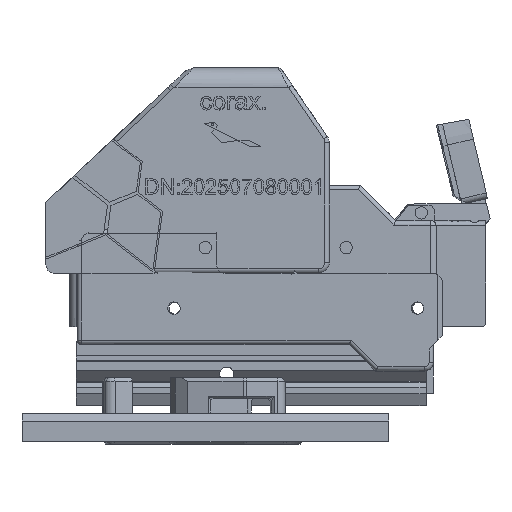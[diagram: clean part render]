
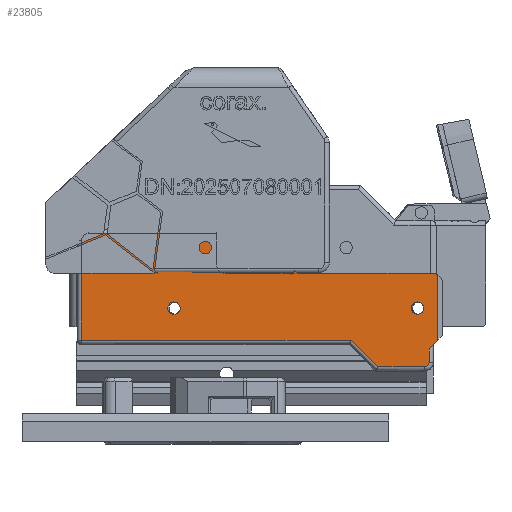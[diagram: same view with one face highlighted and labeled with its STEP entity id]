
A CAD part, left-side view. The second image highlights one B-rep face of the part: STEP entity #23805.
In plain terms, the highlighted planar face has unit normal (-1, 0, 0).
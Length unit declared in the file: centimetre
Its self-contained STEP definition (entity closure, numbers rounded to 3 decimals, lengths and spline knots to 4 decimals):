
#503=FACE_BOUND($,#8993,.T.);
#504=FACE_BOUND($,#8994,.T.);
#896=CIRCLE($,#25054,0.1);
#904=CIRCLE($,#25074,0.225);
#905=CIRCLE($,#25075,0.2);
#906=CIRCLE($,#25076,0.15);
#907=CIRCLE($,#25077,0.14);
#908=CIRCLE($,#25078,0.14);
#3005=LINE($,#43021,#5407);
#3007=LINE($,#43041,#5409);
#3008=LINE($,#43047,#5410);
#3010=LINE($,#43051,#5412);
#3019=LINE($,#43076,#5421);
#3024=LINE($,#43090,#5426);
#3025=LINE($,#43092,#5427);
#3026=LINE($,#43096,#5428);
#3027=LINE($,#43098,#5429);
#3028=LINE($,#43100,#5430);
#3029=LINE($,#43102,#5431);
#3030=LINE($,#43104,#5432);
#3031=LINE($,#43106,#5433);
#3032=LINE($,#43108,#5434);
#3033=LINE($,#43110,#5435);
#3034=LINE($,#43112,#5436);
#3035=LINE($,#43114,#5437);
#3036=LINE($,#43118,#5438);
#3037=LINE($,#43120,#5439);
#5407=VECTOR($,#29496,1.0586);
#5409=VECTOR($,#29508,0.8485);
#5410=VECTOR($,#29515,0.3);
#5412=VECTOR($,#29519,6.0914);
#5421=VECTOR($,#29544,2.25);
#5426=VECTOR($,#29559,0.2828);
#5427=VECTOR($,#29560,1.4707);
#5428=VECTOR($,#29563,3.0494);
#5429=VECTOR($,#29564,0.0896);
#5430=VECTOR($,#29565,0.0458);
#5431=VECTOR($,#29566,0.0155);
#5432=VECTOR($,#29567,0.0135);
#5433=VECTOR($,#29568,0.0087);
#5434=VECTOR($,#29569,0.04);
#5435=VECTOR($,#29570,0.0232);
#5436=VECTOR($,#29571,0.0517);
#5437=VECTOR($,#29572,1.4621);
#5438=VECTOR($,#29575,0.6913);
#5439=VECTOR($,#29576,2.9);
#6381=PLANE($,#25073);
#7618=FACE_OUTER_BOUND($,#8992,.T.);
#8992=EDGE_LOOP($,(#21835,#21836,#21837,#21838,#21839,#21840,#21841,#21842,
#21843,#21844,#21845,#21846,#21847,#21848,#21849,#21850,#21851,#21852,#21853,
#21854,#21855,#21856,#21857));
#8993=EDGE_LOOP($,(#21858));
#8994=EDGE_LOOP($,(#21859));
#11973=VERTEX_POINT($,#43018);
#11974=VERTEX_POINT($,#43020);
#11976=VERTEX_POINT($,#43033);
#11978=VERTEX_POINT($,#43040);
#11980=VERTEX_POINT($,#43045);
#11981=VERTEX_POINT($,#43050);
#11989=VERTEX_POINT($,#43075);
#11993=VERTEX_POINT($,#43089);
#11994=VERTEX_POINT($,#43091);
#11995=VERTEX_POINT($,#43093);
#11996=VERTEX_POINT($,#43095);
#11997=VERTEX_POINT($,#43097);
#11998=VERTEX_POINT($,#43099);
#11999=VERTEX_POINT($,#43101);
#12000=VERTEX_POINT($,#43103);
#12001=VERTEX_POINT($,#43105);
#12002=VERTEX_POINT($,#43107);
#12003=VERTEX_POINT($,#43109);
#12004=VERTEX_POINT($,#43111);
#12005=VERTEX_POINT($,#43113);
#12006=VERTEX_POINT($,#43115);
#12007=VERTEX_POINT($,#43117);
#12008=VERTEX_POINT($,#43119);
#12009=VERTEX_POINT($,#43122);
#12010=VERTEX_POINT($,#43124);
#15300=EDGE_CURVE($,#11973,#11974,#3005,.T.);
#15303=EDGE_CURVE($,#11976,#11973,#896,.T.);
#15306=EDGE_CURVE($,#11974,#11978,#3007,.T.);
#15309=EDGE_CURVE($,#11980,#11976,#3008,.T.);
#15311=EDGE_CURVE($,#11978,#11981,#3010,.T.);
#15324=EDGE_CURVE($,#11981,#11989,#3019,.T.);
#15331=EDGE_CURVE($,#11993,#11980,#3024,.T.);
#15332=EDGE_CURVE($,#11994,#11993,#3025,.T.);
#15333=EDGE_CURVE($,#11995,#11994,#904,.T.);
#15334=EDGE_CURVE($,#11995,#11996,#3026,.T.);
#15335=EDGE_CURVE($,#11996,#11997,#3027,.T.);
#15336=EDGE_CURVE($,#11997,#11998,#3028,.F.);
#15337=EDGE_CURVE($,#11998,#11999,#3029,.T.);
#15338=EDGE_CURVE($,#11999,#12000,#3030,.T.);
#15339=EDGE_CURVE($,#12000,#12001,#3031,.F.);
#15340=EDGE_CURVE($,#12002,#12001,#3032,.T.);
#15341=EDGE_CURVE($,#12002,#12003,#3033,.T.);
#15342=EDGE_CURVE($,#12003,#12004,#3034,.F.);
#15343=EDGE_CURVE($,#12004,#12005,#3035,.T.);
#15344=EDGE_CURVE($,#12005,#12006,#905,.T.);
#15345=EDGE_CURVE($,#12006,#12007,#3036,.T.);
#15346=EDGE_CURVE($,#12008,#12007,#3037,.T.);
#15347=EDGE_CURVE($,#11989,#12008,#906,.T.);
#15348=EDGE_CURVE($,#12009,#12009,#907,.T.);
#15349=EDGE_CURVE($,#12010,#12010,#908,.T.);
#21835=ORIENTED_EDGE($,*,*,#15331,.F.);
#21836=ORIENTED_EDGE($,*,*,#15332,.F.);
#21837=ORIENTED_EDGE($,*,*,#15333,.F.);
#21838=ORIENTED_EDGE($,*,*,#15334,.T.);
#21839=ORIENTED_EDGE($,*,*,#15335,.T.);
#21840=ORIENTED_EDGE($,*,*,#15336,.T.);
#21841=ORIENTED_EDGE($,*,*,#15337,.T.);
#21842=ORIENTED_EDGE($,*,*,#15338,.T.);
#21843=ORIENTED_EDGE($,*,*,#15339,.T.);
#21844=ORIENTED_EDGE($,*,*,#15340,.F.);
#21845=ORIENTED_EDGE($,*,*,#15341,.T.);
#21846=ORIENTED_EDGE($,*,*,#15342,.T.);
#21847=ORIENTED_EDGE($,*,*,#15343,.T.);
#21848=ORIENTED_EDGE($,*,*,#15344,.T.);
#21849=ORIENTED_EDGE($,*,*,#15345,.T.);
#21850=ORIENTED_EDGE($,*,*,#15346,.F.);
#21851=ORIENTED_EDGE($,*,*,#15347,.F.);
#21852=ORIENTED_EDGE($,*,*,#15324,.F.);
#21853=ORIENTED_EDGE($,*,*,#15311,.F.);
#21854=ORIENTED_EDGE($,*,*,#15306,.F.);
#21855=ORIENTED_EDGE($,*,*,#15300,.F.);
#21856=ORIENTED_EDGE($,*,*,#15303,.F.);
#21857=ORIENTED_EDGE($,*,*,#15309,.F.);
#21858=ORIENTED_EDGE($,*,*,#15348,.T.);
#21859=ORIENTED_EDGE($,*,*,#15349,.T.);
#23805=ADVANCED_FACE($,(#7618,#503,#504),#6381,.F.);
#25054=AXIS2_PLACEMENT_3D($,#43035,#29501,#29502);
#25073=AXIS2_PLACEMENT_3D($,#43088,#29557,#29558);
#25074=AXIS2_PLACEMENT_3D($,#43094,#29561,#29562);
#25075=AXIS2_PLACEMENT_3D($,#43116,#29573,#29574);
#25076=AXIS2_PLACEMENT_3D($,#43121,#29577,#29578);
#25077=AXIS2_PLACEMENT_3D($,#43123,#29579,#29580);
#25078=AXIS2_PLACEMENT_3D($,#43125,#29581,#29582);
#29496=DIRECTION($,(0.,1.,0.));
#29501=DIRECTION('center_axis',(1.,0.,0.));
#29502=DIRECTION('ref_axis',(0.,-0.707,-0.707));
#29508=DIRECTION($,(0.,0.707,0.707));
#29515=DIRECTION($,(0.,0.,-1.));
#29519=DIRECTION($,(0.,1.,0.));
#29544=DIRECTION($,(0.,0.,1.));
#29557=DIRECTION('center_axis',(1.,0.,0.));
#29558=DIRECTION('ref_axis',(0.,0.,-1.));
#29559=DIRECTION($,(0.,0.707,-0.707));
#29560=DIRECTION($,(0.,0.,-1.));
#29561=DIRECTION('center_axis',(1.,0.,0.));
#29562=DIRECTION('ref_axis',(0.,-0.707,0.707));
#29563=DIRECTION($,(0.,1.,0.));
#29564=DIRECTION($,(0.,0.791,0.612));
#29565=DIRECTION($,(0.,-0.134,0.991));
#29566=DIRECTION($,(0.,-0.791,-0.612));
#29567=DIRECTION($,(0.,1.,0.));
#29568=DIRECTION($,(0.,-0.134,0.991));
#29569=DIRECTION($,(0.,-1.,0.));
#29570=DIRECTION($,(0.,0.134,-0.991));
#29571=DIRECTION($,(0.,-0.791,-0.612));
#29572=DIRECTION($,(0.,1.,0.));
#29573=DIRECTION('center_axis',(1.,0.,0.));
#29574=DIRECTION('ref_axis',(0.,0.707,-0.707));
#29575=DIRECTION($,(0.,0.,1.));
#29576=DIRECTION($,(0.,-1.,0.));
#29577=DIRECTION('center_axis',(1.,0.,0.));
#29578=DIRECTION('ref_axis',(0.,0.707,0.707));
#29579=DIRECTION('center_axis',(1.,0.,0.));
#29580=DIRECTION('ref_axis',(0.,1.,0.));
#29581=DIRECTION('center_axis',(1.,0.,0.));
#29582=DIRECTION('ref_axis',(0.,1.,0.));
#43018=CARTESIAN_POINT('',(-18.3981,10.6289,1.9));
#43020=CARTESIAN_POINT('',(-18.3981,11.6875,1.9));
#43021=CARTESIAN_POINT($,(-18.3981,16.4039,1.9));
#43033=CARTESIAN_POINT('',(-18.3981,10.5289,2.));
#43035=CARTESIAN_POINT('Origin',(-18.3981,10.6289,2.));
#43040=CARTESIAN_POINT('',(-18.3981,12.2875,2.5));
#43041=CARTESIAN_POINT($,(-18.3981,12.7082,2.9207));
#43045=CARTESIAN_POINT('',(-18.3981,10.5289,2.3));
#43047=CARTESIAN_POINT($,(-18.3981,10.5289,2.075));
#43050=CARTESIAN_POINT('',(-18.3981,18.3789,2.5));
#43051=CARTESIAN_POINT($,(-18.3981,13.6539,2.5));
#43075=CARTESIAN_POINT('',(-18.3981,18.3789,4.75));
#43076=CARTESIAN_POINT($,(-18.3981,18.3789,2.075));
#43088=CARTESIAN_POINT('Origin',(-18.3981,14.3789,2.75));
#43089=CARTESIAN_POINT('',(-18.3981,10.3289,2.5));
#43090=CARTESIAN_POINT($,(-18.3981,11.2789,1.55));
#43091=CARTESIAN_POINT('',(-18.3981,10.3289,3.9707));
#43092=CARTESIAN_POINT($,(-18.3981,10.3289,2.75));
#43093=CARTESIAN_POINT('',(-18.3981,10.4539,4.0087));
#43094=CARTESIAN_POINT('Origin',(-18.3981,10.4539,3.7837));
#43095=CARTESIAN_POINT('',(-18.3981,13.5033,4.0087));
#43096=CARTESIAN_POINT($,(-18.3981,12.8289,4.0087));
#43097=CARTESIAN_POINT('',(-18.3981,13.5742,4.0635));
#43098=CARTESIAN_POINT($,(-18.3981,14.0536,4.434));
#43099=CARTESIAN_POINT('',(-18.3981,13.5803,4.0181));
#43100=CARTESIAN_POINT($,(-18.3981,13.6248,3.6896));
#43101=CARTESIAN_POINT('',(-18.3981,13.5681,4.0087));
#43102=CARTESIAN_POINT($,(-18.3981,14.0778,4.4026));
#43103=CARTESIAN_POINT('',(-18.3981,13.5816,4.0087));
#43104=CARTESIAN_POINT($,(-18.3981,12.8289,4.0087));
#43105=CARTESIAN_POINT('',(-18.3981,13.5828,4.));
#43106=CARTESIAN_POINT($,(-18.3981,13.6248,3.6896));
#43107=CARTESIAN_POINT('',(-18.3981,13.6228,4.));
#43108=CARTESIAN_POINT($,(-18.3981,14.3789,4.));
#43109=CARTESIAN_POINT('',(-18.3981,13.6259,3.977));
#43110=CARTESIAN_POINT($,(-18.3981,13.664,3.6949));
#43111=CARTESIAN_POINT('',(-18.3981,13.6668,4.0087));
#43112=CARTESIAN_POINT($,(-18.3981,14.1147,4.3548));
#43113=CARTESIAN_POINT('',(-18.3981,15.1289,4.0087));
#43114=CARTESIAN_POINT($,(-18.3981,12.8289,4.0087));
#43115=CARTESIAN_POINT('',(-18.3981,15.3289,4.2087));
#43116=CARTESIAN_POINT('Origin',(-18.3981,15.1289,4.2087));
#43117=CARTESIAN_POINT('',(-18.3981,15.3289,4.9));
#43118=CARTESIAN_POINT($,(-18.3981,15.3289,4.325));
#43119=CARTESIAN_POINT('',(-18.3981,18.2289,4.9));
#43120=CARTESIAN_POINT($,(-18.3981,14.3789,4.9));
#43121=CARTESIAN_POINT('Origin',(-18.3981,18.2289,4.75));
#43122=CARTESIAN_POINT('',(-18.3981,10.65,3.2227));
#43123=CARTESIAN_POINT('Origin',(-18.3981,10.79,3.2227));
#43124=CARTESIAN_POINT('',(-18.3981,16.15,3.2227));
#43125=CARTESIAN_POINT('Origin',(-18.3981,16.29,3.2227));
